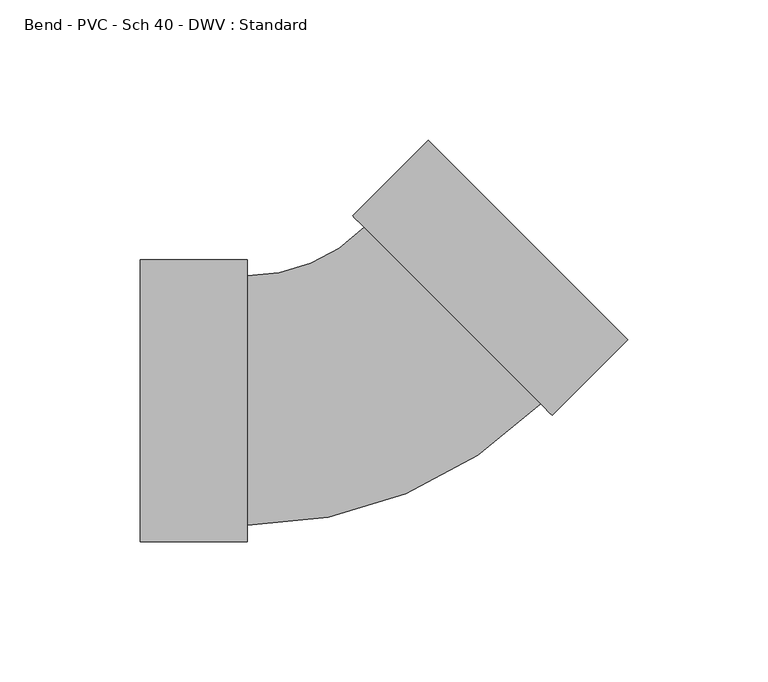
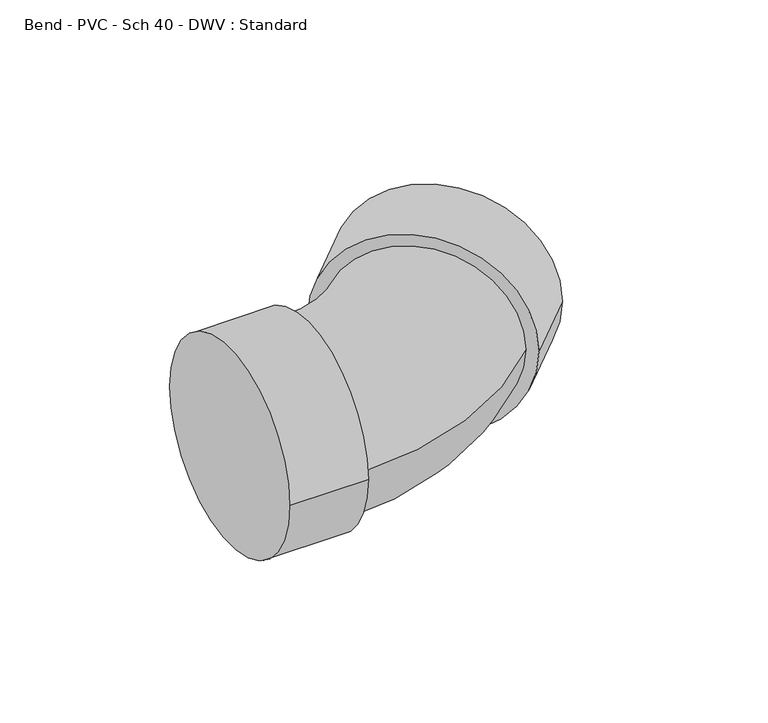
"""IFC4 building model written with IfcOpenShell, lengths in millimetres: pipe fitting geometry, Bend - PVC - Sch 40 - DWV : Standard."""

from ifc_helpers import new_model, si_unit, point, frame, origin, place, context, project, spatial, circle_curve, ellipse_curve, trimmed, source, transform, mapped, element, save
from ifc_brep_helpers import plane_surface, cylinder_surface, revolved_surface, advanced_brep


def bend_pvc_sch_40_dwv_standard_a8c214d8(model_context):
    return source(origin(), model_context, "Body", "AdvancedBrep", [
        advanced_brep(
        [(-80.9752, -50.2666, 0.0), (-80.9752, 50.2666, 0.0), (-42.8752, -50.2666, 0.0), (-42.8752, 50.2666, 0.0), (-42.8752, -44.45, 0.0), (-42.8752, 44.45, 0.0), (-1.1181799, 61.7481575, 0.0), (61.7483244, -1.1089236, 0.0), (65.8615899, -5.2215726, 0.0), (-5.2314454, 65.8608065, 0.0), (92.800339, 21.7212149, 0.0), (21.7073036, 92.803594, 0.0)],
        [
            (0, 1, circle_curve(frame((-80.9752, 0.0, 0.0), z_axis=(-1.0, 0.0, 0.0), x_axis=(0.0, 1.0, 0.0)), 50.2666)),
            (1, 0, circle_curve(frame((-80.9752, 0.0, 0.0), z_axis=(-1.0, 0.0, 0.0), x_axis=(0.0, 1.0, 0.0)), 50.2666)),
            (2, 3, circle_curve(frame((-42.8752, 0.0, 0.0), z_axis=(1.0, 0.0, 0.0), x_axis=(0.0, 1.0, 0.0)), 50.2666)),
            (3, 2, circle_curve(frame((-42.8752, 0.0, 0.0), z_axis=(1.0, 0.0, 0.0), x_axis=(0.0, 1.0, 0.0)), 50.2666)),
            (4, 5, circle_curve(frame((-42.8752, 0.0, 0.0), z_axis=(-1.0, 0.0, 0.0), x_axis=(0.0, 1.0, 0.0)), 44.45)),
            (5, 4, circle_curve(frame((-42.8752, 0.0, 0.0), z_axis=(-1.0, 0.0, 0.0), x_axis=(0.0, 1.0, 0.0)), 44.45)),
            (0, 2),
            (3, 1),
            (6, 5, circle_curve(frame((-42.8752, 103.4989185, 0.0), z_axis=(0.0, 0.0, -1.0), x_axis=(0.0, -1.0, 0.0)), 59.0489185)),
            (4, 7, circle_curve(frame((-42.8752, 103.4989185, 0.0), z_axis=(0.0, 0.0, 1.0), x_axis=(0.0, -1.0, 0.0)), 147.9489185)),
            (7, 6, circle_curve(frame((30.3150722, 30.3196169, 0.0), z_axis=(-0.7070537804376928, -0.7071597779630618, 0.0), x_axis=(-0.7071597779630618, 0.7070537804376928, 0.0)), 44.45)),
            (6, 7, circle_curve(frame((30.3150722, 30.3196169, 0.0), z_axis=(-0.7070537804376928, -0.7071597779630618, 0.0), x_axis=(-0.7071597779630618, 0.7070537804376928, 0.0)), 44.45)),
            (8, 9, circle_curve(frame((30.3150722, 30.3196169, 0.0), z_axis=(-0.7070537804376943, -0.7071597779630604, 0.0), x_axis=(-0.7071597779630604, 0.7070537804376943, 0.0)), 50.2666)),
            (9, 8, circle_curve(frame((30.3150722, 30.3196169, 0.0), z_axis=(-0.7070537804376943, -0.7071597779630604, 0.0), x_axis=(-0.7071597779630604, 0.7070537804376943, 0.0)), 50.2666)),
            (10, 11, circle_curve(frame((57.2538213, 57.2624045, 0.0), z_axis=(0.7070537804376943, 0.7071597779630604, 0.0), x_axis=(-0.7071597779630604, 0.7070537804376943, 0.0)), 50.2666)),
            (11, 10, circle_curve(frame((57.2538213, 57.2624045, 0.0), z_axis=(0.7070537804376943, 0.7071597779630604, 0.0), x_axis=(-0.7071597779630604, 0.7070537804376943, 0.0)), 50.2666)),
            (8, 10),
            (11, 9),
        ],
        [
            plane_surface(frame((-80.9752, 0.0, 0.0), z_axis=(-1.0, 0.0, 0.0), x_axis=(0.0, 0.0, 1.0))),
            plane_surface(frame((-42.8752, 0.0, 0.0), z_axis=(1.0, 0.0, 0.0), x_axis=(0.0, 0.0, 1.0))),
            cylinder_surface(frame((-80.9752, 0.0, 0.0), z_axis=(-1.0, 0.0, 0.0), x_axis=(0.0, 1.0, 0.0)), 50.2666),
            revolved_surface(trimmed(ellipse_curve(frame((-42.8752, 0.0, 0.0), z_axis=(-1.0, 0.0, 0.0), x_axis=(0.0, 1.0, 0.0)), 44.45, 44.45), [point((-42.8752, -44.45, 0.0))], [point((-42.8752, 44.45, 0.0))], True, "CARTESIAN"), (-42.8752, 103.4989185, 0.0), (0.0, 0.0, 1.0)),
            revolved_surface(trimmed(ellipse_curve(frame((-42.8752, 0.0, 0.0), z_axis=(-1.0, 0.0, 0.0), x_axis=(0.0, 1.0, 0.0)), 44.45, 44.45), [point((-42.8752, 44.45, 0.0))], [point((-42.8752, -44.45, 0.0))], True, "CARTESIAN"), (-42.8752, 103.4989185, 0.0), (0.0, 0.0, 1.0)),
            plane_surface(frame((30.3150722, 30.3196169, 0.0), z_axis=(-0.7070537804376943, -0.7071597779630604, 0.0), x_axis=(0.0, 0.0, 1.0))),
            plane_surface(frame((57.2538213, 57.2624045, 0.0), z_axis=(0.7070537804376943, 0.7071597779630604, 0.0), x_axis=(0.0, 0.0, 1.0))),
            cylinder_surface(frame((30.3150722, 30.3196169, 0.0), z_axis=(-0.7070537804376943, -0.7071597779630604, 0.0), x_axis=(-0.7071597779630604, 0.7070537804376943, 0.0)), 50.2666),
        ],
        [
            (0, [[1, 2]]),
            (1, [[3, 4], [5, 6]]),
            (2, [[-1, 7, -4, 8]]),
            (2, [[-2, -8, -3, -7]]),
            (3, [[9, -5, 10, 11]]),
            (4, [[-9, 12, -10, -6]]),
            (5, [[13, 14], [-11, -12]]),
            (6, [[15, 16]]),
            (7, [[-13, 17, -16, 18]]),
            (7, [[-14, -18, -15, -17]]),
        ],
    ),
    ])


if __name__ == "__main__":
    model = new_model("IFC4")
    model_context = context("Model", 3, world=origin())
    ifc_project = project(units=[si_unit("LENGTHUNIT", "METRE", prefix="MILLI")], contexts=[model_context])
    site = spatial("IfcSite", under=ifc_project)
    building = spatial("IfcBuilding", under=site)
    placement = place(None, origin())
    bend_pvc_sch_40_dwv_standard_shape = bend_pvc_sch_40_dwv_standard_a8c214d8(model_context)
    element("IfcPipeFitting", 1, ObjectType="Bend - PVC - Sch 40 - DWV : Standard", at=placement, inside=building, context=model_context, shape_type="MappedRepresentation", body=[
        mapped(bend_pvc_sch_40_dwv_standard_shape, transform((0.0, 0.0, 0.0), x_axis=(1.0, 0.0, 0.0), y_axis=(0.0, 1.0, 0.0), z_axis=(0.0, 0.0, 1.0))),
    ])
    save(model, "model.ifc")
